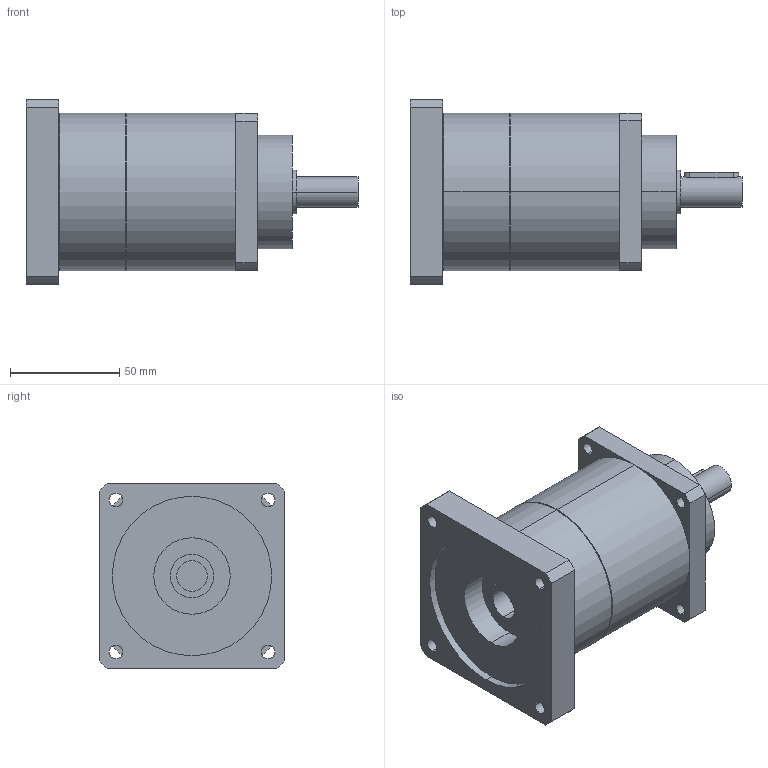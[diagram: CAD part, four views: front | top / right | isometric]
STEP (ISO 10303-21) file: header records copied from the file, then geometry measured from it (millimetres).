
FILE_DESCRIPTION(('CoCreate Modeling STEP Export'),'2;1');
FILE_NAME('GPT75_ig-9-12-16-20-25-28-35-40-50-70-100_14_B5T_14_P36.stp','2014-08-27T13:38:21',(''),(''),'CoCreate Modeling STEP processor for AP214 (Solid Model)','CoCreate Modeling 16.00C 25-Feb-2009 (C) Parametric Technology GmbH','');
FILE_SCHEMA(('AUTOMOTIVE_DESIGN { 1 0 10303 214 1 1 1 1 }'));
Length unit declared in the file: millimetre
Products named in the file (2): GPT75_ig-9-12-16-20-25-28-35-40-50-70-100_14_B5T_14_P36
Assembly tree (1 placements, depth 2):
  GPT75_ig-9-12-16-20-25-28-35-40-50-70-100_14_B5T_14_P36
    GPT75_ig-9-12-16-20-25-28-35-40-50-70-100_14_B5T_14_P36
Bounding box: 152 x 85 x 85 mm (x, y, z)
Volume: 496045.3 mm3; surface area: 52367.1 mm2
Topology: 1 solids, 1 shells, 77 faces, 194 edges, 129 vertices
Faces by surface type: cylinder 46, plane 27, cone 4
Entity records: 2484 total; most frequent: CARTESIAN_POINT 719, ORIENTED_EDGE 388, DIRECTION 320, EDGE_CURVE 194, VERTEX_POINT 129, AXIS2_PLACEMENT_3D 118, EDGE_LOOP 103, VECTOR 84
